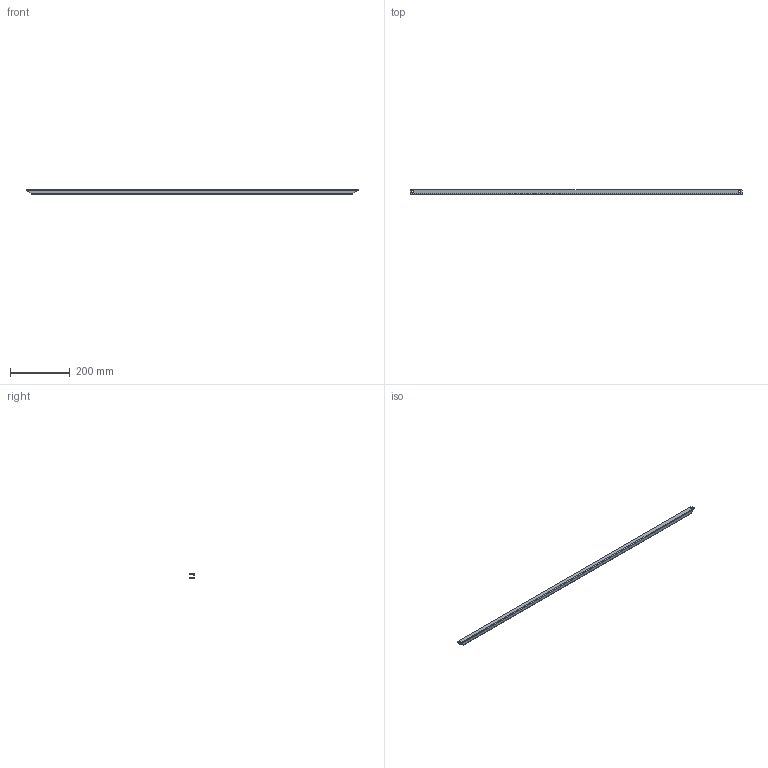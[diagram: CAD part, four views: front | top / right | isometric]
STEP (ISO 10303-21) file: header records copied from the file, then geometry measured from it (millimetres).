
FILE_DESCRIPTION (( 'STEP AP203' ), '1' );
FILE_NAME ('VB 120 Ðåéêà.STEP', '2012-11-15T06:57:33', ( 'Àëåêñàíäð' ), ( 'Ïðîâåíòî' ), 'SwSTEP 2.0', 'SolidWorks 2012', '' );
FILE_SCHEMA (( 'CONFIG_CONTROL_DESIGN' ));
Length unit declared in the file: millimetre
Products named in the file (1): VB 120 Ðåéêà
Bounding box: 1110 x 15 x 15.5 mm (x, y, z)
Volume: 53487.7 mm3; surface area: 92589.1 mm2
Topology: 1 solids, 1 shells, 122 faces, 360 edges, 240 vertices
Faces by surface type: cylinder 98, plane 24
Entity records: 4461 total; most frequent: DIRECTION 798, CARTESIAN_POINT 759, ORIENTED_EDGE 720, EDGE_CURVE 360, AXIS2_PLACEMENT_3D 319, VERTEX_POINT 240, EDGE_LOOP 210, CIRCLE 196
